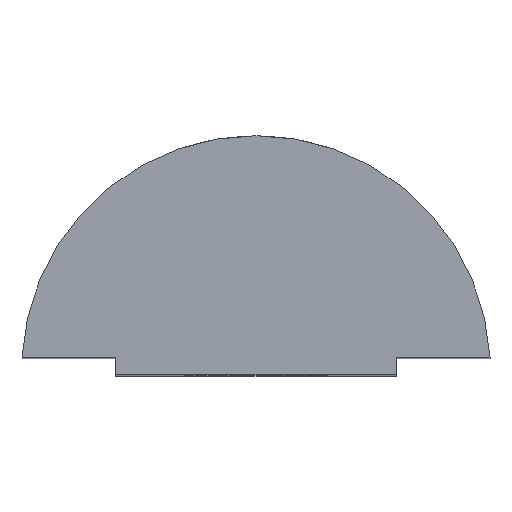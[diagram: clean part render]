
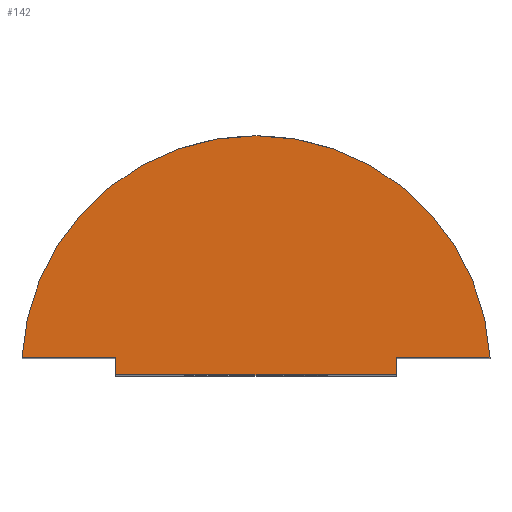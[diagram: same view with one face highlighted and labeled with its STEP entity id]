
A CAD part, top view. The second image highlights one B-rep face of the part: STEP entity #142.
In plain terms, the highlighted planar face has unit normal (0, 0, 1).
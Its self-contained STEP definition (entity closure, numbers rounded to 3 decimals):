
#9 = DIRECTION ( 'NONE',  ( 1., 0., 0. ) ) ;
#23 = CARTESIAN_POINT ( 'NONE',  ( -4.05, 0., 11. ) ) ;
#27 = CARTESIAN_POINT ( 'NONE',  ( 4.05, 0.5, 11. ) ) ;
#41 = EDGE_CURVE ( 'NONE', #128, #85, #329, .T. ) ;
#50 = ORIENTED_EDGE ( 'NONE', *, *, #415, .T. ) ;
#51 = VECTOR ( 'NONE', #404, 1000. ) ;
#54 = DIRECTION ( 'NONE',  ( -1., 0., 0. ) ) ;
#56 = DIRECTION ( 'NONE',  ( 0., 0., -1. ) ) ;
#57 = CIRCLE ( 'NONE', #409, 6.76 ) ;
#65 = CARTESIAN_POINT ( 'NONE',  ( 4.05, 0., 11. ) ) ;
#71 = EDGE_CURVE ( 'NONE', #85, #368, #98, .T. ) ;
#85 = VERTEX_POINT ( 'NONE', #422 ) ;
#87 = ORIENTED_EDGE ( 'NONE', *, *, #359, .T. ) ;
#98 = LINE ( 'NONE', #27, #396 ) ;
#102 = DIRECTION ( 'NONE',  ( -1., 0., 0. ) ) ;
#109 = VECTOR ( 'NONE', #326, 1000. ) ;
#116 = VECTOR ( 'NONE', #307, 1000. ) ;
#122 = CARTESIAN_POINT ( 'NONE',  ( -4.05, 0.5, 11. ) ) ;
#124 = CARTESIAN_POINT ( 'NONE',  ( -6.75, 0.5, 11. ) ) ;
#128 = VERTEX_POINT ( 'NONE', #391 ) ;
#130 = VERTEX_POINT ( 'NONE', #328 ) ;
#142 = ADVANCED_FACE ( 'NONE', ( #287 ), #167, .F. ) ;
#152 = CARTESIAN_POINT ( 'NONE',  ( -4.05, 0.5, 11. ) ) ;
#165 = VERTEX_POINT ( 'NONE', #23 ) ;
#167 = PLANE ( 'NONE',  #337 ) ;
#197 = CARTESIAN_POINT ( 'NONE',  ( 0., 0.14, 11. ) ) ;
#198 = DIRECTION ( 'NONE',  ( 1., 0., 0. ) ) ;
#204 = CARTESIAN_POINT ( 'NONE',  ( -4.05, 0., 11. ) ) ;
#205 = ORIENTED_EDGE ( 'NONE', *, *, #407, .T. ) ;
#210 = VECTOR ( 'NONE', #9, 1000. ) ;
#216 = ORIENTED_EDGE ( 'NONE', *, *, #71, .T. ) ;
#223 = ORIENTED_EDGE ( 'NONE', *, *, #258, .T. ) ;
#252 = LINE ( 'NONE', #122, #116 ) ;
#258 = EDGE_CURVE ( 'NONE', #165, #128, #333, .T. ) ;
#282 = CARTESIAN_POINT ( 'NONE',  ( 6.75, 0.5, 11. ) ) ;
#287 = FACE_OUTER_BOUND ( 'NONE', #380, .T. ) ;
#295 = CARTESIAN_POINT ( 'NONE',  ( 0., 0.14, 11. ) ) ;
#307 = DIRECTION ( 'NONE',  ( 0., -1., 0. ) ) ;
#326 = DIRECTION ( 'NONE',  ( 0., 1., 0. ) ) ;
#328 = CARTESIAN_POINT ( 'NONE',  ( -6.75, 0.5, 11. ) ) ;
#329 = LINE ( 'NONE', #65, #109 ) ;
#333 = LINE ( 'NONE', #204, #51 ) ;
#337 = AXIS2_PLACEMENT_3D ( 'NONE', #295, #56, #54 ) ;
#343 = LINE ( 'NONE', #124, #210 ) ;
#359 = EDGE_CURVE ( 'NONE', #130, #376, #343, .T. ) ;
#363 = ORIENTED_EDGE ( 'NONE', *, *, #41, .T. ) ;
#368 = VERTEX_POINT ( 'NONE', #282 ) ;
#376 = VERTEX_POINT ( 'NONE', #152 ) ;
#380 = EDGE_LOOP ( 'NONE', ( #50, #87, #205, #223, #363, #216 ) ) ;
#391 = CARTESIAN_POINT ( 'NONE',  ( 4.05, 0., 11. ) ) ;
#393 = DIRECTION ( 'NONE',  ( 0., 0., 1. ) ) ;
#396 = VECTOR ( 'NONE', #198, 1000. ) ;
#404 = DIRECTION ( 'NONE',  ( 1., 0., 0. ) ) ;
#407 = EDGE_CURVE ( 'NONE', #376, #165, #252, .T. ) ;
#409 = AXIS2_PLACEMENT_3D ( 'NONE', #197, #393, #102 ) ;
#415 = EDGE_CURVE ( 'NONE', #368, #130, #57, .T. ) ;
#422 = CARTESIAN_POINT ( 'NONE',  ( 4.05, 0.5, 11. ) ) ;
